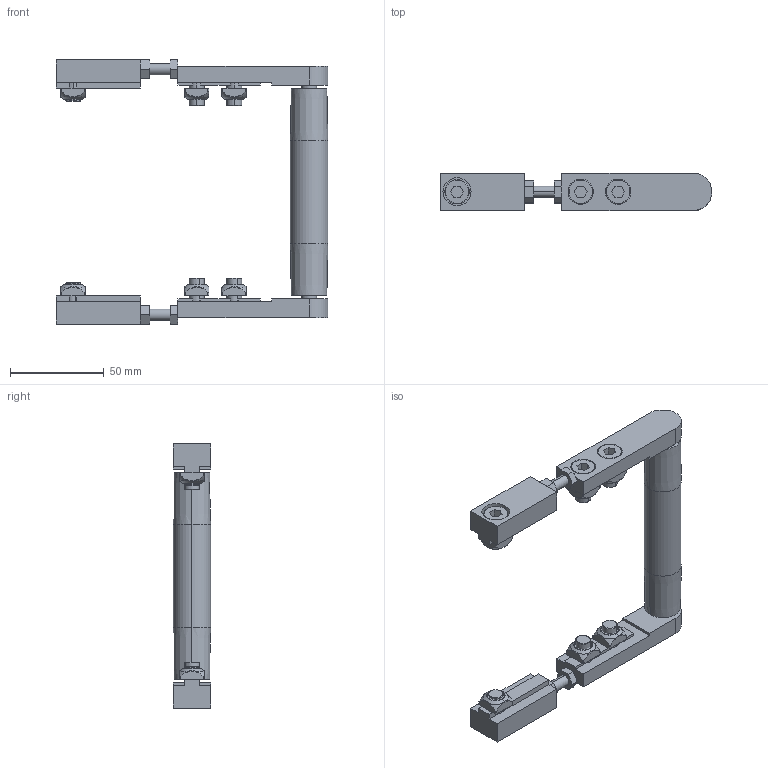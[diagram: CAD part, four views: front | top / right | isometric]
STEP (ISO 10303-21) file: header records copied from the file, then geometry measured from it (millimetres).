
FILE_DESCRIPTION (( 'STEP AP214' ), '1' );
FILE_NAME ('084.020.KI.090.STEP', '2021-02-05T13:52:52', ( '' ), ( '' ), 'SwSTEP 2.0', 'SolidWorks 2018', '' );
FILE_SCHEMA (( 'AUTOMOTIVE_DESIGN' ));
Length unit declared in the file: millimetre
Products named in the file (10): 084.800.008; 084.800.007; 084.301.000 VITI ALUSIC_084.301.002; 084.800.012; 084.802.008; Circlip DIN 471 - 8 x 0.8_Circlip DIN 471 - 8 x 0.8; 084.020.KI.090; 084.800.044; 084.302.000 DADI ALUSIC 13x13-1_084.302.004; 084.800.002
Assembly tree (27 placements, depth 2):
  084.020.KI.090
    084.802.008  x2
    084.301.000 VITI ALUSIC_084.301.002  x6
    084.302.000 DADI ALUSIC 13x13-1_084.302.004  x6
    084.800.044
    084.800.012  x4
    084.800.008  x2
    084.800.002  x2
    084.800.007  x2
    Circlip DIN 471 - 8 x 0.8_Circlip DIN 471 - 8 x 0.8  x2
Bounding box: 145 x 20 x 141 mm (x, y, z)
Volume: 81165.8 mm3; surface area: 53672.7 mm2
Topology: 31 solids, 31 shells, 664 faces, 1564 edges, 998 vertices
Faces by surface type: plane 262, cylinder 210, torus 112, cone 56, bspline 24
Entity records: 7452 total; most frequent: CARTESIAN_POINT 1561, DIRECTION 1208, ORIENTED_EDGE 1048, EDGE_CURVE 524, AXIS2_PLACEMENT_3D 474, VERTEX_POINT 337, LINE 260, VECTOR 260
